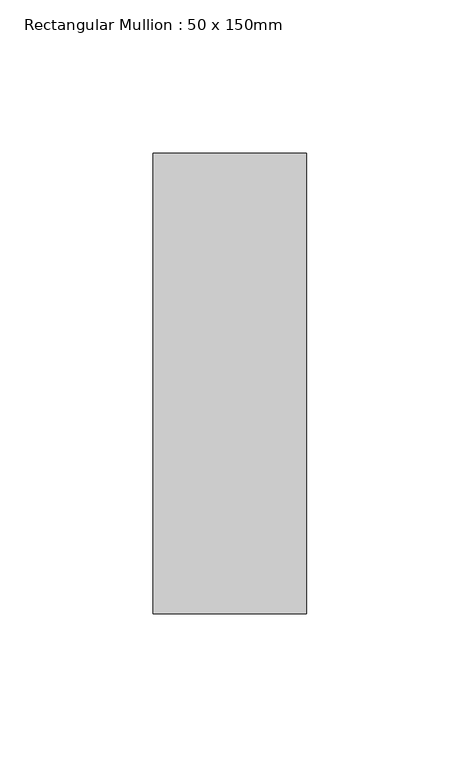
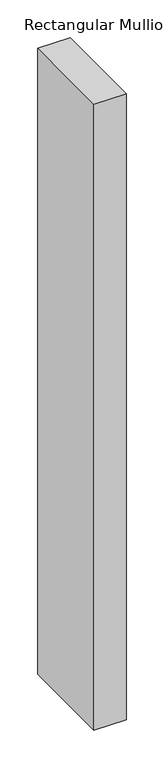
"""IFC4 building model written with IfcOpenShell, lengths in millimetres: member geometry, Rectangular Mullion : 50 x 150mm."""

from ifc_helpers import new_model, si_unit, frame, origin, place, context, project, spatial, polyline, outline, extrude, source, transform, mapped, element, save


def rectangular_mullion_50_x_150mm_8c829915(model_context):
    return source(origin(), model_context, "Body", "SweptSolid", [
        extrude(outline(polyline([(25.0, 75.0), (25.0, -75.0), (-25.0, -75.0), (-25.0, 75.0), (25.0, 75.0)])), frame((0.0, 0.0, -1017.5000016), z_axis=(0.0, 0.0, 1.0), x_axis=(1.0, 0.0, 0.0)), (0.0, 0.0, 1.0), 1017.5000016),
    ])


if __name__ == "__main__":
    model = new_model("IFC4")
    model_context = context("Model", 3, world=origin())
    ifc_project = project(units=[si_unit("LENGTHUNIT", "METRE", prefix="MILLI")], contexts=[model_context])
    site = spatial("IfcSite", under=ifc_project)
    building = spatial("IfcBuilding", under=site)
    placement = place(None, origin())
    rectangular_mullion_50_x_150mm_shape = rectangular_mullion_50_x_150mm_8c829915(model_context)
    element("IfcMember", 1, ObjectType="Rectangular Mullion : 50 x 150mm", at=placement, inside=building, context=model_context, shape_type="MappedRepresentation", body=[
        mapped(rectangular_mullion_50_x_150mm_shape, transform((0.0, 0.0, 0.0), x_axis=(1.0, 0.0, 0.0), y_axis=(0.0, 1.0, 0.0), z_axis=(0.0, 0.0, 1.0))),
    ])
    save(model, "model.ifc")
